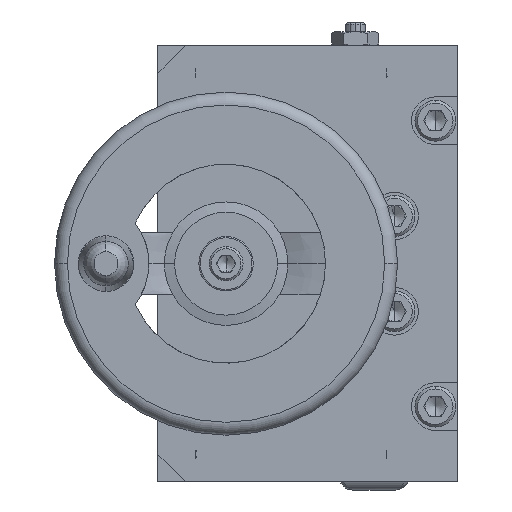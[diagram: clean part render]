
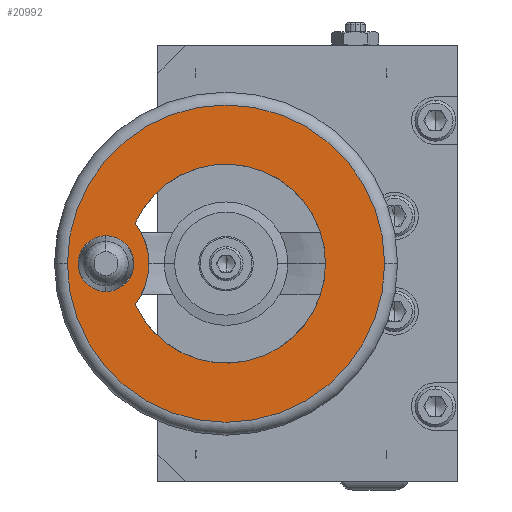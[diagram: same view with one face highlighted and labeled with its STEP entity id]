
A CAD part, left-side view. The second image highlights one B-rep face of the part: STEP entity #20992.
In plain terms, the highlighted planar face has unit normal (-1, 0, 0) as drawn and (0, 1, 0) by its records, which use the part's own axes.
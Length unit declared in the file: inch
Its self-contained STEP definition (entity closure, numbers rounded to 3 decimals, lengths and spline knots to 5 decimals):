
#401 = ORIENTED_EDGE ( 'NONE', *, *, #20554, .F. ) ;
#402 = ORIENTED_EDGE ( 'NONE', *, *, #20475, .F. ) ;
#403 = ORIENTED_EDGE ( 'NONE', *, *, #20493, .T. ) ;
#404 = ORIENTED_EDGE ( 'NONE', *, *, #20488, .T. ) ;
#405 = ORIENTED_EDGE ( 'NONE', *, *, #20521, .F. ) ;
#406 = ORIENTED_EDGE ( 'NONE', *, *, #20476, .F. ) ;
#407 = ORIENTED_EDGE ( 'NONE', *, *, #20525, .T. ) ;
#408 = ORIENTED_EDGE ( 'NONE', *, *, #20474, .T. ) ;
#3406 = CIRCLE ( 'NONE', #3411, 1.45669 ) ;
#3408 = CIRCLE ( 'NONE', #3413, 0.25591 ) ;
#3410 = CIRCLE ( 'NONE', #3415, 0.91339 ) ;
#3411 = AXIS2_PLACEMENT_3D ( 'NONE', #6548, #6549, #6550 ) ;
#3413 = AXIS2_PLACEMENT_3D ( 'NONE', #6551, #6552, #6553 ) ;
#3415 = AXIS2_PLACEMENT_3D ( 'NONE', #6555, #6556, #6557 ) ;
#3427 = CIRCLE ( 'NONE', #3430, 0.61417 ) ;
#3430 = AXIS2_PLACEMENT_3D ( 'NONE', #6615, #6616, #6617 ) ;
#3433 = CIRCLE ( 'NONE', #3435, 0.61417 ) ;
#3435 = AXIS2_PLACEMENT_3D ( 'NONE', #6631, #6632, #6633 ) ;
#3470 = CIRCLE ( 'NONE', #3472, 0.91339 ) ;
#3472 = AXIS2_PLACEMENT_3D ( 'NONE', #6760, #6761, #6762 ) ;
#3476 = CIRCLE ( 'NONE', #3479, 1.45669 ) ;
#3479 = AXIS2_PLACEMENT_3D ( 'NONE', #6772, #6773, #6774 ) ;
#3516 = CIRCLE ( 'NONE', #3525, 0.25591 ) ;
#3525 = AXIS2_PLACEMENT_3D ( 'NONE', #6891, #6892, #6893 ) ;
#5814 = CARTESIAN_POINT ( 'NONE',  ( 0.25591, 1.41732, -1.10236 ) ) ;
#5825 = CARTESIAN_POINT ( 'NONE',  ( -0.25591, 1.41732, -1.10236 ) ) ;
#6548 = CARTESIAN_POINT ( 'NONE',  ( 0., 1.41732, 0. ) ) ;
#6549 = DIRECTION ( 'NONE',  ( 0., 1., 0. ) ) ;
#6550 = DIRECTION ( 'NONE',  ( 0., 0., 1. ) ) ;
#6551 = CARTESIAN_POINT ( 'NONE',  ( 0., 1.41732, -1.10236 ) ) ;
#6552 = DIRECTION ( 'NONE',  ( 0., 1., 0. ) ) ;
#6553 = DIRECTION ( 'NONE',  ( 0., 0., 1. ) ) ;
#6555 = CARTESIAN_POINT ( 'NONE',  ( 0., 1.41732, 0. ) ) ;
#6556 = DIRECTION ( 'NONE',  ( 0., 1., 0. ) ) ;
#6557 = DIRECTION ( 'NONE',  ( 0., 0., 1. ) ) ;
#6615 = CARTESIAN_POINT ( 'NONE',  ( 0., 1.41732, -1.32283 ) ) ;
#6616 = DIRECTION ( 'NONE',  ( 0., 1., 0. ) ) ;
#6617 = DIRECTION ( 'NONE',  ( 1., 0., 0. ) ) ;
#6631 = CARTESIAN_POINT ( 'NONE',  ( 0., 1.41732, -1.32283 ) ) ;
#6632 = DIRECTION ( 'NONE',  ( 0., 1., 0. ) ) ;
#6633 = DIRECTION ( 'NONE',  ( 1., 0., 0. ) ) ;
#6760 = CARTESIAN_POINT ( 'NONE',  ( 0., 1.41732, 0. ) ) ;
#6761 = DIRECTION ( 'NONE',  ( 0., 1., 0. ) ) ;
#6762 = DIRECTION ( 'NONE',  ( 0., 0., 1. ) ) ;
#6772 = CARTESIAN_POINT ( 'NONE',  ( 0., 1.41732, 0. ) ) ;
#6773 = DIRECTION ( 'NONE',  ( 0., 1., 0. ) ) ;
#6774 = DIRECTION ( 'NONE',  ( 0., 0., 1. ) ) ;
#6891 = CARTESIAN_POINT ( 'NONE',  ( 0., 1.41732, -1.10236 ) ) ;
#6892 = DIRECTION ( 'NONE',  ( 0., 1., 0. ) ) ;
#6893 = DIRECTION ( 'NONE',  ( 0., 0., 1. ) ) ;
#8530 = AXIS2_PLACEMENT_3D ( 'NONE', #10625, #10622, #10632 ) ;
#10619 = FACE_BOUND ( 'NONE', #21884, .T. ) ;
#10622 = DIRECTION ( 'NONE',  ( 0., 1., 0. ) ) ;
#10625 = CARTESIAN_POINT ( 'NONE',  ( 0.91339, 1.41732, 0. ) ) ;
#10627 = FACE_BOUND ( 'NONE', #21989, .T. ) ;
#10630 = FACE_OUTER_BOUND ( 'NONE', #22028, .T. ) ;
#10631 = PLANE ( 'NONE',  #8530 ) ;
#10632 = DIRECTION ( 'NONE',  ( 0., 0., 1. ) ) ;
#16464 = CARTESIAN_POINT ( 'NONE',  ( 0., 1.41732, 0.91339 ) ) ;
#16504 = CARTESIAN_POINT ( 'NONE',  ( -0.37205, 1.41732, -0.83418 ) ) ;
#16519 = CARTESIAN_POINT ( 'NONE',  ( 0., 1.41732, -0.70866 ) ) ;
#16539 = CARTESIAN_POINT ( 'NONE',  ( 0.37205, 1.41732, -0.83418 ) ) ;
#16555 = CARTESIAN_POINT ( 'NONE',  ( 0., 1.41732, 1.45669 ) ) ;
#16568 = CARTESIAN_POINT ( 'NONE',  ( 0., 1.41732, -1.45669 ) ) ;
#19972 = VERTEX_POINT ( 'NONE', #5814 ) ;
#19983 = VERTEX_POINT ( 'NONE', #5825 ) ;
#20474 = EDGE_CURVE ( 'NONE', #22324, #22312, #3406, .T. ) ;
#20475 = EDGE_CURVE ( 'NONE', #19972, #19983, #3408, .T. ) ;
#20476 = EDGE_CURVE ( 'NONE', #22260, #22220, #3410, .T. ) ;
#20488 = EDGE_CURVE ( 'NONE', #22275, #22295, #3427, .T. ) ;
#20493 = EDGE_CURVE ( 'NONE', #22260, #22275, #3433, .T. ) ;
#20521 = EDGE_CURVE ( 'NONE', #22220, #22295, #3470, .T. ) ;
#20525 = EDGE_CURVE ( 'NONE', #22312, #22324, #3476, .T. ) ;
#20554 = EDGE_CURVE ( 'NONE', #19983, #19972, #3516, .T. ) ;
#20992 = ADVANCED_FACE ( 'NONE', ( #10619, #10627, #10630 ), #10631, .T. ) ;
#21884 = EDGE_LOOP ( 'NONE', ( #401, #402 ) ) ;
#21989 = EDGE_LOOP ( 'NONE', ( #403, #404, #405, #406 ) ) ;
#22028 = EDGE_LOOP ( 'NONE', ( #407, #408 ) ) ;
#22220 = VERTEX_POINT ( 'NONE', #16464 ) ;
#22260 = VERTEX_POINT ( 'NONE', #16504 ) ;
#22275 = VERTEX_POINT ( 'NONE', #16519 ) ;
#22295 = VERTEX_POINT ( 'NONE', #16539 ) ;
#22312 = VERTEX_POINT ( 'NONE', #16555 ) ;
#22324 = VERTEX_POINT ( 'NONE', #16568 ) ;
